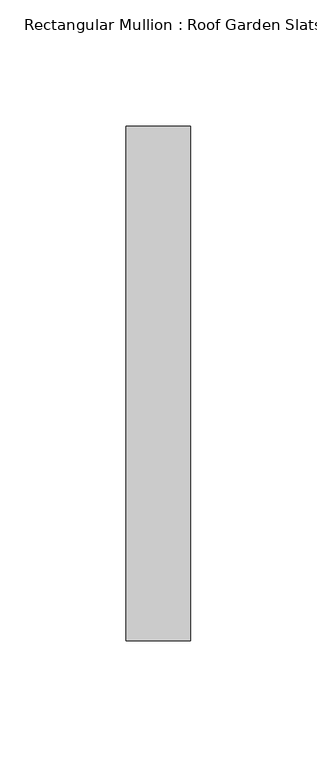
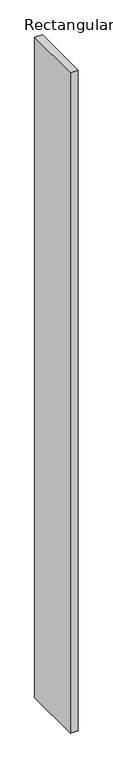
"""IFC4 building model written with IfcOpenShell, lengths in millimetres: member geometry, Rectangular Mullion : Roof Garden Slats."""

from ifc_helpers import new_model, si_unit, frame, origin, place, context, project, spatial, polyline, outline, extrude, source, transform, mapped, element, save


def rectangular_mullion_roof_garden_slats_fc8407e1(model_context):
    return source(origin(), model_context, "Body", "SweptSolid", [
        extrude(outline(polyline([(12.7, 139.7), (12.7, -63.5), (-12.7, -63.5), (-12.7, 139.7), (12.7, 139.7)])), frame((0.0, 0.0, -2298.1694838), z_axis=(0.0, 0.0, 1.0), x_axis=(1.0, 0.0, 0.0)), (0.0, 0.0, 1.0), 2298.1694838),
    ])


if __name__ == "__main__":
    model = new_model("IFC4")
    model_context = context("Model", 3, world=origin())
    ifc_project = project(units=[si_unit("LENGTHUNIT", "METRE", prefix="MILLI")], contexts=[model_context])
    site = spatial("IfcSite", under=ifc_project)
    building = spatial("IfcBuilding", under=site)
    placement = place(None, origin())
    rectangular_mullion_roof_garden_slats_shape = rectangular_mullion_roof_garden_slats_fc8407e1(model_context)
    element("IfcMember", 1, ObjectType="Rectangular Mullion : Roof Garden Slats", at=placement, inside=building, context=model_context, shape_type="MappedRepresentation", body=[
        mapped(rectangular_mullion_roof_garden_slats_shape, transform((0.0, 0.0, 0.0), x_axis=(1.0, 0.0, 0.0), y_axis=(0.0, 1.0, 0.0), z_axis=(0.0, 0.0, 1.0))),
    ])
    save(model, "model.ifc")
